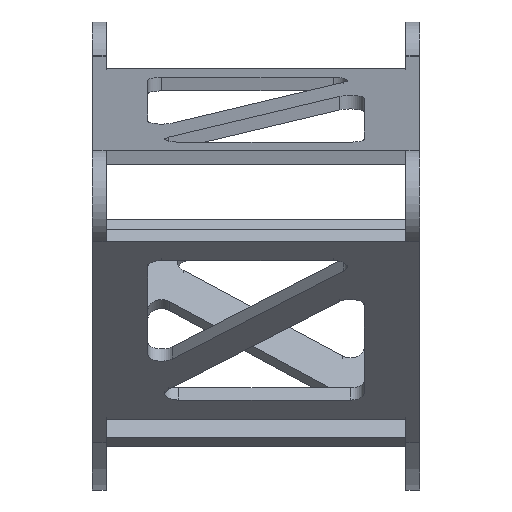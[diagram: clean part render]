
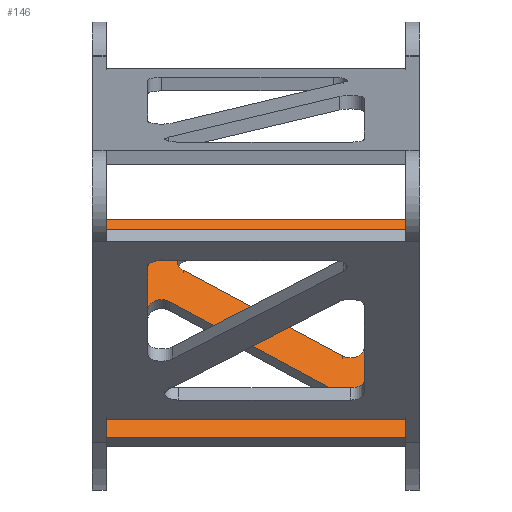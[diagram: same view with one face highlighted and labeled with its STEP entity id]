
A CAD part, left-side view. The second image highlights one B-rep face of the part: STEP entity #146.
In plain terms, the highlighted planar face has unit normal (-0.756, 0, 0.654).
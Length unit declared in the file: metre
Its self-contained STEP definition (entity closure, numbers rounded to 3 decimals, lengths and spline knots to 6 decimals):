
#146 = ADVANCED_FACE( '', ( #369, #370, #371 ), #372, .T. );
#369 = FACE_OUTER_BOUND( '', #688, .T. );
#370 = FACE_BOUND( '', #689, .T. );
#371 = FACE_BOUND( '', #690, .T. );
#372 = PLANE( '', #691 );
#688 = EDGE_LOOP( '', ( #1491, #1492, #1493, #1494 ) );
#689 = EDGE_LOOP( '', ( #1495, #1496, #1497, #1498, #1499, #1500 ) );
#690 = EDGE_LOOP( '', ( #1501, #1502, #1503, #1504, #1505, #1506 ) );
#691 = AXIS2_PLACEMENT_3D( '', #1507, #1508, #1509 );
#1491 = ORIENTED_EDGE( '', *, *, #2044, .F. );
#1492 = ORIENTED_EDGE( '', *, *, #2269, .F. );
#1493 = ORIENTED_EDGE( '', *, *, #2187, .F. );
#1494 = ORIENTED_EDGE( '', *, *, #2270, .F. );
#1495 = ORIENTED_EDGE( '', *, *, #2262, .T. );
#1496 = ORIENTED_EDGE( '', *, *, #2110, .T. );
#1497 = ORIENTED_EDGE( '', *, *, #1981, .T. );
#1498 = ORIENTED_EDGE( '', *, *, #2224, .T. );
#1499 = ORIENTED_EDGE( '', *, *, #1977, .T. );
#1500 = ORIENTED_EDGE( '', *, *, #2228, .T. );
#1501 = ORIENTED_EDGE( '', *, *, #1982, .T. );
#1502 = ORIENTED_EDGE( '', *, *, #2271, .T. );
#1503 = ORIENTED_EDGE( '', *, *, #2086, .T. );
#1504 = ORIENTED_EDGE( '', *, *, #2098, .T. );
#1505 = ORIENTED_EDGE( '', *, *, #2257, .T. );
#1506 = ORIENTED_EDGE( '', *, *, #2238, .T. );
#1507 = CARTESIAN_POINT( '', ( 0.038255, 0., -0.033071 ) );
#1508 = DIRECTION( '', ( -0.757, 0., 0.654 ) );
#1509 = DIRECTION( '', ( 0.654, 0., 0.757 ) );
#1977 = EDGE_CURVE( '', #2339, #2343, #2345, .T. );
#1981 = EDGE_CURVE( '', #2347, #2351, #2353, .T. );
#1982 = EDGE_CURVE( '', #2354, #2355, #2356, .T. );
#2044 = EDGE_CURVE( '', #2475, #2477, #2478, .T. );
#2086 = EDGE_CURVE( '', #2556, #2557, #2558, .T. );
#2098 = EDGE_CURVE( '', #2557, #2576, #2578, .T. );
#2110 = EDGE_CURVE( '', #2596, #2347, #2599, .T. );
#2187 = EDGE_CURVE( '', #2729, #2731, #2732, .T. );
#2224 = EDGE_CURVE( '', #2351, #2339, #2791, .T. );
#2228 = EDGE_CURVE( '', #2343, #2795, #2797, .T. );
#2238 = EDGE_CURVE( '', #2808, #2354, #2811, .T. );
#2257 = EDGE_CURVE( '', #2576, #2808, #2842, .T. );
#2262 = EDGE_CURVE( '', #2795, #2596, #2849, .T. );
#2269 = EDGE_CURVE( '', #2731, #2475, #2857, .T. );
#2270 = EDGE_CURVE( '', #2477, #2729, #2858, .T. );
#2271 = EDGE_CURVE( '', #2355, #2556, #2859, .T. );
#2339 = VERTEX_POINT( '', #2945 );
#2343 = VERTEX_POINT( '', #2950 );
#2345 = CIRCLE( '', #2953, 0.005 );
#2347 = VERTEX_POINT( '', #2955 );
#2351 = VERTEX_POINT( '', #2960 );
#2353 = CIRCLE( '', #2963, 0.005 );
#2354 = VERTEX_POINT( '', #2964 );
#2355 = VERTEX_POINT( '', #2965 );
#2356 = LINE( '', #2966, #2967 );
#2475 = VERTEX_POINT( '', #3124 );
#2477 = VERTEX_POINT( '', #3127 );
#2478 = LINE( '', #3128, #3129 );
#2556 = VERTEX_POINT( '', #3229 );
#2557 = VERTEX_POINT( '', #3230 );
#2558 = LINE( '', #3231, #3232 );
#2576 = VERTEX_POINT( '', #3257 );
#2578 = CIRCLE( '', #3260, 0.005 );
#2596 = VERTEX_POINT( '', #3283 );
#2599 = LINE( '', #3288, #3289 );
#2729 = VERTEX_POINT( '', #3466 );
#2731 = VERTEX_POINT( '', #3469 );
#2732 = LINE( '', #3470, #3471 );
#2791 = LINE( '', #3549, #3550 );
#2795 = VERTEX_POINT( '', #3556 );
#2797 = LINE( '', #3559, #3560 );
#2808 = VERTEX_POINT( '', #3576 );
#2811 = CIRCLE( '', #3580, 0.005 );
#2842 = LINE( '', #3623, #3624 );
#2849 = CIRCLE( '', #3633, 0.005 );
#2857 = LINE( '', #3646, #3647 );
#2858 = LINE( '', #3648, #3649 );
#2859 = CIRCLE( '', #3650, 0.005 );
#2945 = CARTESIAN_POINT( '', ( 0.098048, -0.027738, 0.036094 ) );
#2950 = CARTESIAN_POINT( '', ( 0.103981, -0.030639, 0.042957 ) );
#2953 = AXIS2_PLACEMENT_3D( '', #3781, #3782, #3783 );
#2955 = CARTESIAN_POINT( '', ( 0.073993, -0.093, 0.008268 ) );
#2960 = CARTESIAN_POINT( '', ( 0.07133, -0.085099, 0.005187 ) );
#2963 = AXIS2_PLACEMENT_3D( '', #3789, #3790, #3791 );
#2964 = CARTESIAN_POINT( '', ( 0.059096, -0.015, -0.008964 ) );
#2965 = CARTESIAN_POINT( '', ( 0.085594, -0.015, 0.021688 ) );
#2966 = CARTESIAN_POINT( '', ( 0.059096, -0.015, -0.008964 ) );
#2967 = VECTOR( '', #3792, 1. );
#3124 = CARTESIAN_POINT( '', ( 0.113791, -0.108, 0.054305 ) );
#3127 = CARTESIAN_POINT( '', ( 0.046016, -0.108, -0.024094 ) );
#3128 = CARTESIAN_POINT( '', ( 0.113791, -0.108, 0.054305 ) );
#3129 = VECTOR( '', #3898, 1. );
#3229 = CARTESIAN_POINT( '', ( 0.088258, -0.022901, 0.024769 ) );
#3230 = CARTESIAN_POINT( '', ( 0.061759, -0.07979, -0.005883 ) );
#3231 = CARTESIAN_POINT( '', ( 0.088258, -0.022901, 0.024769 ) );
#3232 = VECTOR( '', #3978, 1. );
#3257 = CARTESIAN_POINT( '', ( 0.055826, -0.076889, -0.012747 ) );
#3260 = AXIS2_PLACEMENT_3D( '', #3996, #3997, #3998 );
#3283 = CARTESIAN_POINT( '', ( 0.100712, -0.093, 0.039175 ) );
#3288 = CARTESIAN_POINT( '', ( 0.100712, -0.093, 0.039175 ) );
#3289 = VECTOR( '', #4018, 1. );
#3466 = CARTESIAN_POINT( '', ( 0.046016, 0., -0.024094 ) );
#3469 = CARTESIAN_POINT( '', ( 0.113791, 0., 0.054305 ) );
#3470 = CARTESIAN_POINT( '', ( 0.046016, 0., -0.024094 ) );
#3471 = VECTOR( '', #4151, 1. );
#3549 = CARTESIAN_POINT( '', ( 0.07133, -0.085099, 0.005187 ) );
#3550 = VECTOR( '', #4222, 1. );
#3556 = CARTESIAN_POINT( '', ( 0.103981, -0.088, 0.042957 ) );
#3559 = CARTESIAN_POINT( '', ( 0.103981, -0.030639, 0.042957 ) );
#3560 = VECTOR( '', #4226, 1. );
#3576 = CARTESIAN_POINT( '', ( 0.055826, -0.02, -0.012747 ) );
#3580 = AXIS2_PLACEMENT_3D( '', #4242, #4243, #4244 );
#3623 = CARTESIAN_POINT( '', ( 0.055826, -0.076889, -0.012747 ) );
#3624 = VECTOR( '', #4275, 1. );
#3633 = AXIS2_PLACEMENT_3D( '', #4284, #4285, #4286 );
#3646 = CARTESIAN_POINT( '', ( 0.113791, 0., 0.054305 ) );
#3647 = VECTOR( '', #4295, 1. );
#3648 = CARTESIAN_POINT( '', ( 0.046016, -0.108, -0.024094 ) );
#3649 = VECTOR( '', #4296, 1. );
#3650 = AXIS2_PLACEMENT_3D( '', #4297, #4298, #4299 );
#3781 = CARTESIAN_POINT( '', ( 0.100712, -0.030639, 0.039175 ) );
#3782 = DIRECTION( '', ( 0.757, 0., -0.654 ) );
#3783 = DIRECTION( '', ( -0.533, 0.58, -0.616 ) );
#3789 = CARTESIAN_POINT( '', ( 0.073993, -0.088, 0.008268 ) );
#3790 = DIRECTION( '', ( 0.757, 0., -0.654 ) );
#3791 = DIRECTION( '', ( 0., -1., 0. ) );
#3792 = DIRECTION( '', ( 0.654, 0., 0.757 ) );
#3898 = DIRECTION( '', ( -0.654, 0., -0.757 ) );
#3978 = DIRECTION( '', ( -0.379, -0.815, -0.439 ) );
#3996 = CARTESIAN_POINT( '', ( 0.059096, -0.076889, -0.008964 ) );
#3997 = DIRECTION( '', ( 0.757, 0., -0.654 ) );
#3998 = DIRECTION( '', ( 0.533, -0.58, 0.616 ) );
#4018 = DIRECTION( '', ( -0.654, 0., -0.757 ) );
#4151 = DIRECTION( '', ( 0.654, 0., 0.757 ) );
#4222 = DIRECTION( '', ( 0.379, 0.815, 0.439 ) );
#4226 = DIRECTION( '', ( 0., -1., 0. ) );
#4242 = CARTESIAN_POINT( '', ( 0.059096, -0.02, -0.008964 ) );
#4243 = DIRECTION( '', ( 0.757, 0., -0.654 ) );
#4244 = DIRECTION( '', ( -0.654, 0., -0.757 ) );
#4275 = DIRECTION( '', ( 0., 1., 0. ) );
#4284 = CARTESIAN_POINT( '', ( 0.100712, -0.088, 0.039175 ) );
#4285 = DIRECTION( '', ( 0.757, 0., -0.654 ) );
#4286 = DIRECTION( '', ( 0.654, 0., 0.757 ) );
#4295 = DIRECTION( '', ( 0., -1., 0. ) );
#4296 = DIRECTION( '', ( 0., 1., 0. ) );
#4297 = CARTESIAN_POINT( '', ( 0.085594, -0.02, 0.021688 ) );
#4298 = DIRECTION( '', ( 0.757, 0., -0.654 ) );
#4299 = DIRECTION( '', ( 0., 1., 0. ) );
